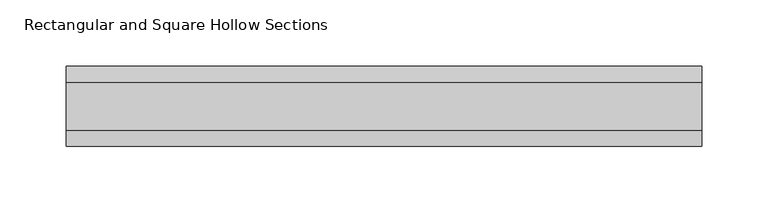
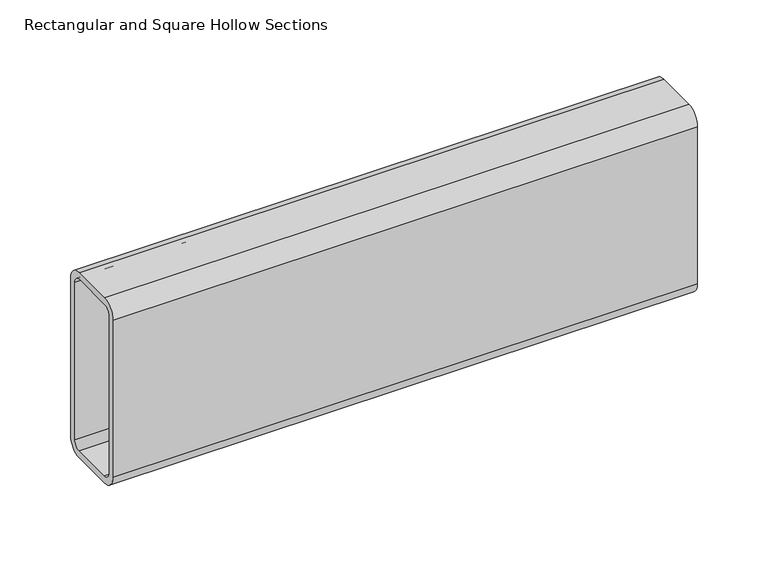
"""IFC4 building model written with IfcOpenShell, lengths in millimetres: beam geometry, Rectangular and Square Hollow Sections : TREC160x60x6."""

from ifc_helpers import new_model, si_unit, point, frame, frame_2d, origin, place, context, project, spatial, polyline, circle_curve, trimmed, segment, composite_curve, outline, extrude, source, transform, mapped, element, save


def rectangular_and_square_hollow_sections_9ac2fbd2(model_context):
    return source(origin(), model_context, "Body", "SweptSolid", [
        extrude(outline(composite_curve([segment(polyline([(30.0, 68.0), (30.0, -68.0)]), True, "CONTINUOUS"), segment(trimmed(circle_curve(frame_2d((18.0, -68.0)), 12.0), [point((30.0, -68.0))], [point((18.0, -80.0))], False, "CARTESIAN"), True, "CONTINUOUS"), segment(polyline([(18.0, -80.0), (-18.0, -80.0)]), True, "CONTINUOUS"), segment(trimmed(circle_curve(frame_2d((-18.0, -68.0)), 12.0), [point((-18.0, -80.0))], [point((-30.0, -68.0))], False, "CARTESIAN"), True, "CONTINUOUS"), segment(polyline([(-30.0, -68.0), (-30.0, 68.0)]), True, "CONTINUOUS"), segment(trimmed(circle_curve(frame_2d((-18.0, 68.0)), 12.0), [point((-30.0, 68.0))], [point((-18.0, 80.0))], False, "CARTESIAN"), True, "CONTINUOUS"), segment(polyline([(-18.0, 80.0), (18.0, 80.0)]), True, "CONTINUOUS"), segment(trimmed(circle_curve(frame_2d((18.0, 68.0)), 12.0), [point((18.0, 80.0))], [point((30.0, 68.0))], False, "CARTESIAN"), True, "CONTINUOUS")], self_intersect=False), holes=[composite_curve([segment(trimmed(circle_curve(frame_2d((-18.0, 68.0)), 6.0), [point((-18.0, 74.0))], [point((-24.0, 68.0))], True, "CARTESIAN"), True, "CONTINUOUS"), segment(polyline([(-24.0, 68.0), (-24.0, -68.0)]), True, "CONTINUOUS"), segment(trimmed(circle_curve(frame_2d((-18.0, -68.0)), 6.0), [point((-24.0, -68.0))], [point((-18.0, -74.0))], True, "CARTESIAN"), True, "CONTINUOUS"), segment(polyline([(-18.0, -74.0), (18.0, -74.0)]), True, "CONTINUOUS"), segment(trimmed(circle_curve(frame_2d((18.0, -68.0)), 6.0), [point((18.0, -74.0))], [point((24.0, -68.0))], True, "CARTESIAN"), True, "CONTINUOUS"), segment(polyline([(24.0, -68.0), (24.0, 68.0)]), True, "CONTINUOUS"), segment(trimmed(circle_curve(frame_2d((18.0, 68.0)), 6.0), [point((24.0, 68.0))], [point((18.0, 74.0))], True, "CARTESIAN"), True, "CONTINUOUS"), segment(polyline([(18.0, 74.0), (-18.0, 74.0)]), True, "CONTINUOUS")], self_intersect=False)]), frame((-232.5, 0.0, 0.0), z_axis=(1.0, 0.0, 0.0), x_axis=(0.0, 1.0, 0.0)), (0.0, 0.0, 1.0), 478.0),
    ])


if __name__ == "__main__":
    model = new_model("IFC4")
    model_context = context("Model", 3, world=origin())
    ifc_project = project(units=[si_unit("LENGTHUNIT", "METRE", prefix="MILLI")], contexts=[model_context])
    site = spatial("IfcSite", under=ifc_project)
    building = spatial("IfcBuilding", under=site)
    placement = place(None, origin())
    rectangular_and_square_hollow_sections_shape = rectangular_and_square_hollow_sections_9ac2fbd2(model_context)
    element("IfcBeam", 1, ObjectType="Rectangular and Square Hollow Sections : TREC160x60x6", at=placement, inside=building, context=model_context, shape_type="MappedRepresentation", body=[
        mapped(rectangular_and_square_hollow_sections_shape, transform((0.0, 0.0, 0.0), x_axis=(1.0, 0.0, 0.0), y_axis=(0.0, 1.0, 0.0), z_axis=(0.0, 0.0, 1.0))),
    ])
    save(model, "model.ifc")
